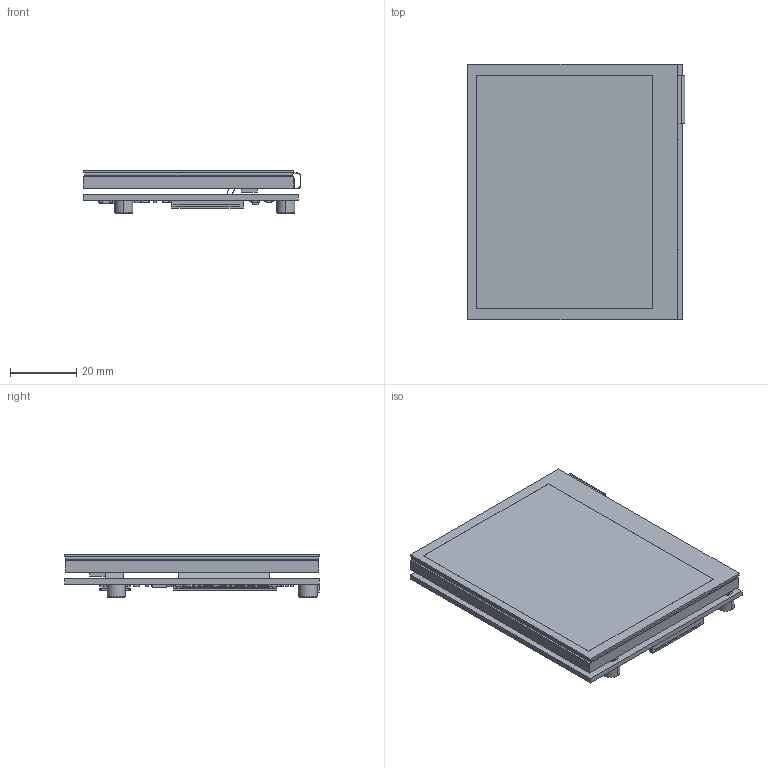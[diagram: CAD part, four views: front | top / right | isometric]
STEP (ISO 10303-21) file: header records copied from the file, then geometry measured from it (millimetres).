
FILE_DESCRIPTION((''),'2;1');
FILE_NAME('3_5INCH-DSI-LCD-E_ASM','2025-11-28T13:59:12',('ag'),(''),'CREO PARAMETRIC BY PTC INC, 2021063','CREO PARAMETRIC BY PTC INC, 2021063','');
FILE_SCHEMA(('CONFIG_CONTROL_DESIGN','SHAPE_APPEARANCE_LAYERS_GROUPS'));
Products named in the file (10): 3_5INCH-TP; 4_3INCH-LCD; 3_5-LCD-E_ASM; 3_5_INCH_DSI_LCD_E; 1MM-15PIN-FPC-CONNECTOR; FPC-54PIN-0_5000; FPC0_5_2H-S-W-10P-000; SMTSO-M2_5-4ET; 3_5_INCH_DSI_LCD_E-PCB_ASM; 3_5INCH-DSI-LCD-E_ASM
Assembly tree (12 placements, depth 3):
  3_5INCH-DSI-LCD-E_ASM
    3_5-LCD-E_ASM
      3_5INCH-TP
      4_3INCH-LCD
    3_5_INCH_DSI_LCD_E-PCB_ASM
      3_5_INCH_DSI_LCD_E
      1MM-15PIN-FPC-CONNECTOR
      FPC-54PIN-0_5000
      FPC0_5_2H-S-W-10P-000
      SMTSO-M2_5-4ET  x4
Bounding box: 65.83 x 77.27 x 12.9 mm (x, y, z)
Volume: 33607.6 mm3; surface area: 35583.4 mm2
Topology: 11 solids, 12 shells, 2255 faces, 6123 edges, 4043 vertices
Faces by surface type: plane 1934, cylinder 185, extrusion 80, bspline 32, cone 24
Entity records: 93951 total; most frequent: CARTESIAN_POINT 16279, ORIENTED_EDGE 11580, DIRECTION 9934, EDGE_CURVE 5802, VECTOR 5468, PRESENTATION_STYLE_ASSIGNMENT 5410, LINE 5388, STYLED_ITEM 4464
